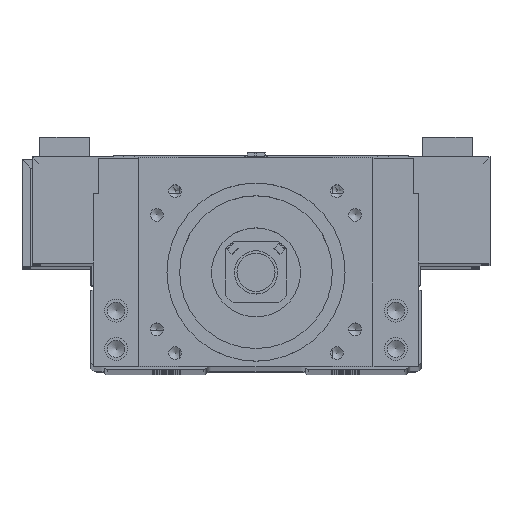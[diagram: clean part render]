
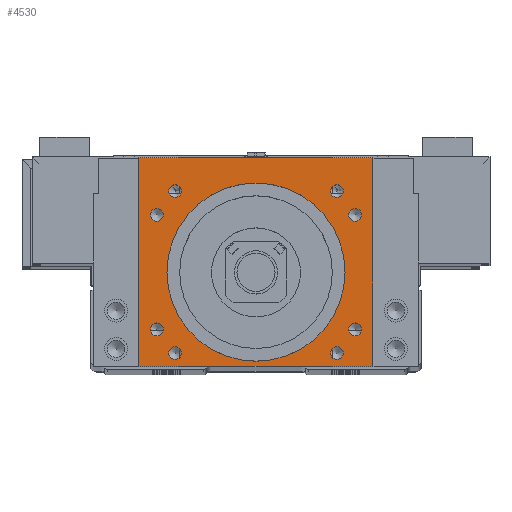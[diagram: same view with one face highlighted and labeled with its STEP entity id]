
A CAD part, top view. The second image highlights one B-rep face of the part: STEP entity #4530.
In plain terms, the highlighted planar face has unit normal (0, 0, 1).
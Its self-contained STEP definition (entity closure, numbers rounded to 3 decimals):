
#4530=ADVANCED_FACE('',(#20492,#20493,#20494,#20495,#20496,#20497,#20498,
#20499,#20500,#20501),#7199,.T.);
#7199=PLANE('',#48839);
#9414=LINE('',#64357,#14787);
#9824=LINE('',#66883,#15197);
#9825=LINE('',#66885,#15198);
#9826=LINE('',#66887,#15199);
#14787=VECTOR('',#51840,1.);
#15197=VECTOR('',#53440,1.);
#15198=VECTOR('',#53441,1.);
#15199=VECTOR('',#53442,1.);
#20492=FACE_BOUND('',#21736,.T.);
#20493=FACE_BOUND('',#21737,.T.);
#20494=FACE_BOUND('',#21738,.T.);
#20495=FACE_BOUND('',#21739,.T.);
#20496=FACE_BOUND('',#21740,.T.);
#20497=FACE_BOUND('',#21741,.T.);
#20498=FACE_BOUND('',#21742,.T.);
#20499=FACE_BOUND('',#21743,.T.);
#20500=FACE_BOUND('',#21744,.T.);
#20501=FACE_BOUND('',#21745,.T.);
#21736=EDGE_LOOP('',(#26080,#26081,#26082,#26083));
#21737=EDGE_LOOP('',(#26084));
#21738=EDGE_LOOP('',(#26085));
#21739=EDGE_LOOP('',(#26086));
#21740=EDGE_LOOP('',(#26087));
#21741=EDGE_LOOP('',(#26088));
#21742=EDGE_LOOP('',(#26089));
#21743=EDGE_LOOP('',(#26090));
#21744=EDGE_LOOP('',(#26091));
#21745=EDGE_LOOP('',(#26092));
#26080=ORIENTED_EDGE('',*,*,#42007,.T.);
#26081=ORIENTED_EDGE('',*,*,#41273,.T.);
#26082=ORIENTED_EDGE('',*,*,#42008,.T.);
#26083=ORIENTED_EDGE('',*,*,#42009,.T.);
#26084=ORIENTED_EDGE('',*,*,#42004,.F.);
#26085=ORIENTED_EDGE('',*,*,#42002,.T.);
#26086=ORIENTED_EDGE('',*,*,#42000,.T.);
#26087=ORIENTED_EDGE('',*,*,#42006,.F.);
#26088=ORIENTED_EDGE('',*,*,#42010,.F.);
#26089=ORIENTED_EDGE('',*,*,#41966,.T.);
#26090=ORIENTED_EDGE('',*,*,#41965,.T.);
#26091=ORIENTED_EDGE('',*,*,#41963,.T.);
#26092=ORIENTED_EDGE('',*,*,#41960,.T.);
#37226=VERTEX_POINT('',#64356);
#37227=VERTEX_POINT('',#64358);
#37727=VERTEX_POINT('',#66765);
#37731=VERTEX_POINT('',#66774);
#37734=VERTEX_POINT('',#66781);
#37735=VERTEX_POINT('',#66784);
#37761=VERTEX_POINT('',#66860);
#37764=VERTEX_POINT('',#66867);
#37767=VERTEX_POINT('',#66874);
#37770=VERTEX_POINT('',#66881);
#37771=VERTEX_POINT('',#66884);
#37772=VERTEX_POINT('',#66886);
#37773=VERTEX_POINT('',#66889);
#41273=EDGE_CURVE('',#37227,#37226,#9414,.T.);
#41960=EDGE_CURVE('',#37727,#37727,#47750,.T.);
#41963=EDGE_CURVE('',#37731,#37731,#47753,.T.);
#41965=EDGE_CURVE('',#37734,#37734,#47755,.T.);
#41966=EDGE_CURVE('',#37735,#37735,#47756,.T.);
#42000=EDGE_CURVE('',#37761,#37761,#47767,.T.);
#42002=EDGE_CURVE('',#37764,#37764,#47769,.T.);
#42004=EDGE_CURVE('',#37767,#37767,#47771,.T.);
#42006=EDGE_CURVE('',#37770,#37770,#47773,.T.);
#42007=EDGE_CURVE('',#37771,#37227,#9824,.T.);
#42008=EDGE_CURVE('',#37226,#37772,#9825,.T.);
#42009=EDGE_CURVE('',#37772,#37771,#9826,.T.);
#42010=EDGE_CURVE('',#37773,#37773,#47774,.T.);
#47750=CIRCLE('',#48786,2.5);
#47753=CIRCLE('',#48791,2.5);
#47755=CIRCLE('',#48795,2.5);
#47756=CIRCLE('',#48797,2.5);
#47767=CIRCLE('',#48824,2.5);
#47769=CIRCLE('',#48828,2.5);
#47771=CIRCLE('',#48832,2.5);
#47773=CIRCLE('',#48836,2.5);
#47774=CIRCLE('',#48838,35.015);
#48786=AXIS2_PLACEMENT_3D('',#66764,#53313,#53314);
#48791=AXIS2_PLACEMENT_3D('',#66773,#53323,#53324);
#48795=AXIS2_PLACEMENT_3D('',#66780,#53331,#53332);
#48797=AXIS2_PLACEMENT_3D('',#66783,#53335,#53336);
#48824=AXIS2_PLACEMENT_3D('',#66859,#53412,#53413);
#48828=AXIS2_PLACEMENT_3D('',#66866,#53420,#53421);
#48832=AXIS2_PLACEMENT_3D('',#66873,#53428,#53429);
#48836=AXIS2_PLACEMENT_3D('',#66880,#53436,#53437);
#48838=AXIS2_PLACEMENT_3D('',#66888,#53443,#53444);
#48839=AXIS2_PLACEMENT_3D('',#66890,#53445,#53446);
#51840=DIRECTION('',(-1.,0.,0.));
#53313=DIRECTION('',(0.,0.,-1.));
#53314=DIRECTION('',(1.,0.,0.));
#53323=DIRECTION('',(0.,0.,-1.));
#53324=DIRECTION('',(1.,0.,0.));
#53331=DIRECTION('',(0.,0.,-1.));
#53332=DIRECTION('',(1.,0.,0.));
#53335=DIRECTION('',(0.,0.,-1.));
#53336=DIRECTION('',(1.,0.,0.));
#53412=DIRECTION('',(0.,0.,-1.));
#53413=DIRECTION('',(1.,0.,0.));
#53420=DIRECTION('',(0.,0.,-1.));
#53421=DIRECTION('',(1.,0.,0.));
#53428=DIRECTION('',(0.,0.,1.));
#53429=DIRECTION('',(-1.,0.,0.));
#53436=DIRECTION('',(0.,0.,1.));
#53437=DIRECTION('',(-1.,0.,0.));
#53440=DIRECTION('',(0.,1.,0.));
#53441=DIRECTION('',(0.,-1.,0.));
#53442=DIRECTION('',(1.,0.,0.));
#53443=DIRECTION('',(0.,0.,1.));
#53444=DIRECTION('',(1.,0.,0.));
#53445=DIRECTION('',(0.,0.,1.));
#53446=DIRECTION('',(-1.,0.,0.));
#64356=CARTESIAN_POINT('',(-46.,83.,100.));
#64357=CARTESIAN_POINT('',(0.,83.,100.));
#64358=CARTESIAN_POINT('',(46.,83.,100.));
#66764=CARTESIAN_POINT('',(31.82,69.82,100.));
#66765=CARTESIAN_POINT('',(34.32,69.82,100.));
#66773=CARTESIAN_POINT('',(31.82,6.18,100.));
#66774=CARTESIAN_POINT('',(34.32,6.18,100.));
#66780=CARTESIAN_POINT('',(-31.82,6.18,100.));
#66781=CARTESIAN_POINT('',(-29.32,6.18,100.));
#66783=CARTESIAN_POINT('',(-31.82,69.82,100.));
#66784=CARTESIAN_POINT('',(-29.32,69.82,100.));
#66859=CARTESIAN_POINT('',(38.971,15.5,100.));
#66860=CARTESIAN_POINT('',(41.471,15.5,100.));
#66866=CARTESIAN_POINT('',(38.971,60.5,100.));
#66867=CARTESIAN_POINT('',(41.471,60.5,100.));
#66873=CARTESIAN_POINT('',(-38.971,15.5,100.));
#66874=CARTESIAN_POINT('',(-41.471,15.5,100.));
#66880=CARTESIAN_POINT('',(-38.971,60.5,100.));
#66881=CARTESIAN_POINT('',(-41.471,60.5,100.));
#66883=CARTESIAN_POINT('',(46.,38.,100.));
#66884=CARTESIAN_POINT('',(46.,1.,100.));
#66885=CARTESIAN_POINT('',(-46.,38.,100.));
#66886=CARTESIAN_POINT('',(-46.,1.,100.));
#66887=CARTESIAN_POINT('',(0.,1.,100.));
#66888=CARTESIAN_POINT('',(0.,38.,100.));
#66889=CARTESIAN_POINT('',(35.015,38.,100.));
#66890=CARTESIAN_POINT('',(0.,38.,100.));
